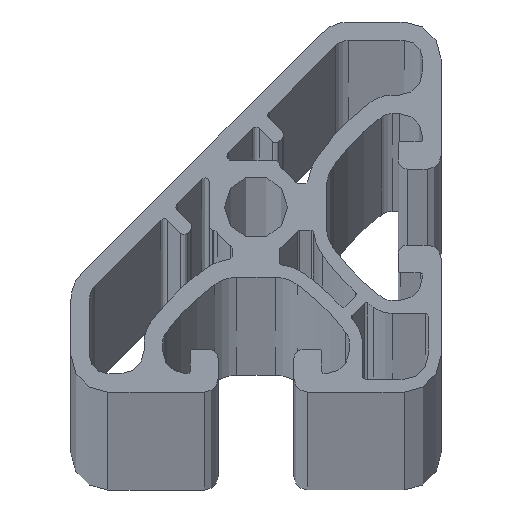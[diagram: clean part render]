
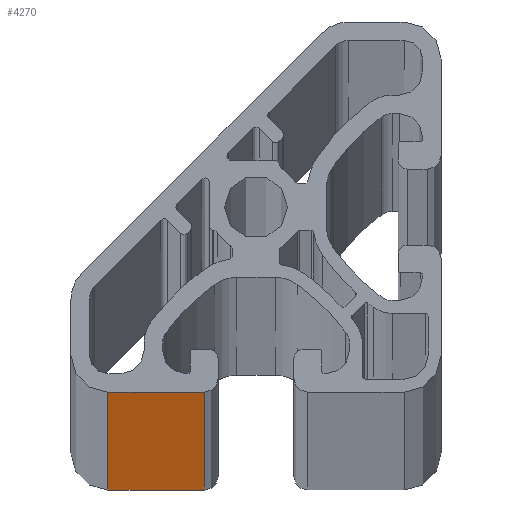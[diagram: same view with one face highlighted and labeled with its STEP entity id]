
A CAD part, top view. The second image highlights one B-rep face of the part: STEP entity #4270.
In plain terms, the highlighted planar face has unit normal (0, -1, 0).
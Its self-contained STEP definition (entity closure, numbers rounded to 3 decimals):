
#74 = LINE ( 'NONE', #2103, #3272 ) ;
#182 = LINE ( 'NONE', #1372, #3214 ) ;
#256 = EDGE_CURVE ( 'NONE', #4967, #340, #182, .T. ) ;
#264 = PLANE ( 'NONE',  #3106 ) ;
#324 = ORIENTED_EDGE ( 'NONE', *, *, #256, .F. ) ;
#340 = VERTEX_POINT ( 'NONE', #593 ) ;
#367 = DIRECTION ( 'NONE',  ( 0., 0., -1. ) ) ;
#568 = VECTOR ( 'NONE', #4796, 1000. ) ;
#593 = CARTESIAN_POINT ( 'NONE',  ( -5.6, -20., 6060. ) ) ;
#872 = ORIENTED_EDGE ( 'NONE', *, *, #2461, .T. ) ;
#1005 = LINE ( 'NONE', #1891, #568 ) ;
#1372 = CARTESIAN_POINT ( 'NONE',  ( -16., -20., 6060. ) ) ;
#1488 = VERTEX_POINT ( 'NONE', #2826 ) ;
#1820 = CARTESIAN_POINT ( 'NONE',  ( -16., -20., 0. ) ) ;
#1891 = CARTESIAN_POINT ( 'NONE',  ( -16., -20., 0. ) ) ;
#1978 = EDGE_CURVE ( 'NONE', #4967, #4982, #3339, .T. ) ;
#2053 = DIRECTION ( 'NONE',  ( 0., 0., -1. ) ) ;
#2103 = CARTESIAN_POINT ( 'NONE',  ( -5.6, -20., 6060. ) ) ;
#2346 = DIRECTION ( 'NONE',  ( 0., 1., 0. ) ) ;
#2461 = EDGE_CURVE ( 'NONE', #4982, #1488, #1005, .T. ) ;
#2506 = CARTESIAN_POINT ( 'NONE',  ( -16., -20., 6060. ) ) ;
#2705 = EDGE_CURVE ( 'NONE', #340, #1488, #74, .T. ) ;
#2826 = CARTESIAN_POINT ( 'NONE',  ( -5.6, -20., 0. ) ) ;
#2906 = ORIENTED_EDGE ( 'NONE', *, *, #1978, .T. ) ;
#3106 = AXIS2_PLACEMENT_3D ( 'NONE', #4843, #2346, #5331 ) ;
#3214 = VECTOR ( 'NONE', #3498, 1000. ) ;
#3272 = VECTOR ( 'NONE', #2053, 1000. ) ;
#3339 = LINE ( 'NONE', #2506, #5092 ) ;
#3403 = EDGE_LOOP ( 'NONE', ( #872, #4953, #324, #2906 ) ) ;
#3498 = DIRECTION ( 'NONE',  ( 1., 0., 0. ) ) ;
#3903 = CARTESIAN_POINT ( 'NONE',  ( -16., -20., 6060. ) ) ;
#4270 = ADVANCED_FACE ( 'NONE', ( #4925 ), #264, .F. ) ;
#4796 = DIRECTION ( 'NONE',  ( 1., 0., 0. ) ) ;
#4843 = CARTESIAN_POINT ( 'NONE',  ( -16., -20., 6060. ) ) ;
#4925 = FACE_OUTER_BOUND ( 'NONE', #3403, .T. ) ;
#4953 = ORIENTED_EDGE ( 'NONE', *, *, #2705, .F. ) ;
#4967 = VERTEX_POINT ( 'NONE', #3903 ) ;
#4982 = VERTEX_POINT ( 'NONE', #1820 ) ;
#5092 = VECTOR ( 'NONE', #367, 1000. ) ;
#5331 = DIRECTION ( 'NONE',  ( -1., 0., 0. ) ) ;
